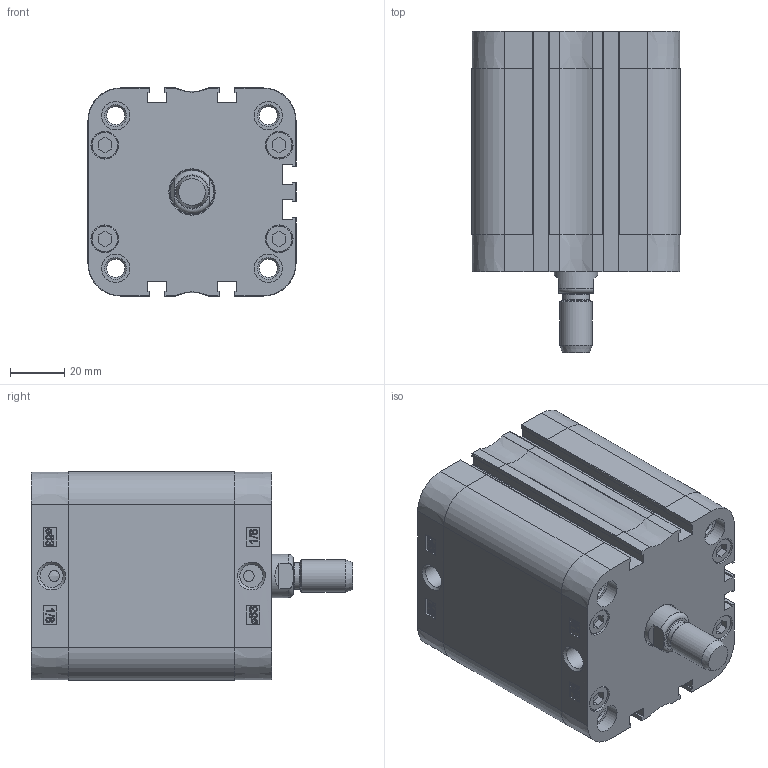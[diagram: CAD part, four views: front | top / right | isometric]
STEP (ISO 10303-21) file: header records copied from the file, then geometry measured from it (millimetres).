
FILE_DESCRIPTION((''),'2;1');
FILE_NAME('T:\Archivio Inventor\- CATALOGHI 2012\SERIE P - NUOVA\PDM\PDM063\PDM063.---.GS.M\PDM063.040.GS.M.stp','2013-02-04T09:26:30',('Administrator'),(''),'Autodesk Inventor 2012','Autodesk Inventor 2012','');
FILE_SCHEMA(('CONFIG_CONTROL_DESIGN'));
Length unit declared in the file: millimetre
Products named in the file (1): PDM063.040.GS.M
Bounding box: 77 x 119 x 77 mm (x, y, z)
Volume: 247703.6 mm3; surface area: 94202.9 mm2
Topology: 1 solids, 5 shells, 824 faces, 1993 edges, 1252 vertices
Faces by surface type: plane 346, bspline 218, cylinder 142, torus 55, cone 45, sphere 18
Full cylindrical faces by diameter (mm): 4 x2, 6.3 x4, 6.647 x8, 8.047 x4, 8.566 x2, 9.8 x8, 10 x1, 10.3 x8, 10.5 x8, 12 x2, 16 x1, 16.5 x1, 63 x1, 65.4 x1, 65.6 x1
Entity records: 27348 total; most frequent: CARTESIAN_POINT 9100, ORIENTED_EDGE 3744, DIRECTION 3031, EDGE_CURVE 1872, VERTEX_POINT 1231, AXIS2_PLACEMENT_3D 1026, EDGE_LOOP 1003, VECTOR 979
